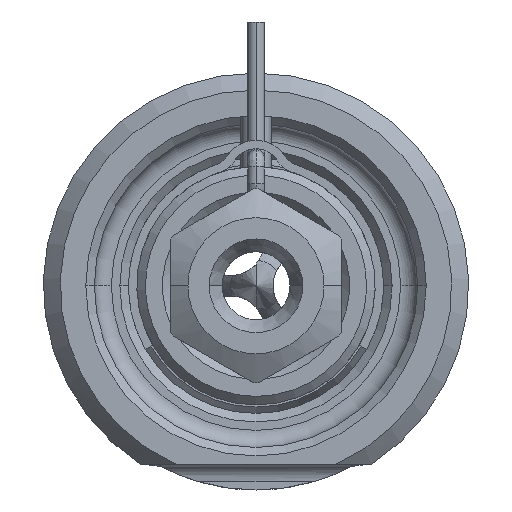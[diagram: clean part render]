
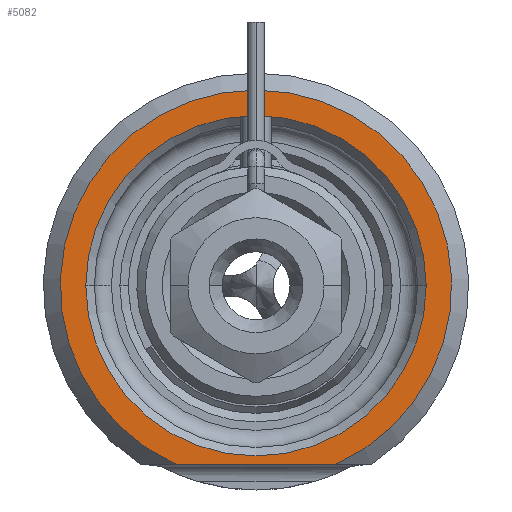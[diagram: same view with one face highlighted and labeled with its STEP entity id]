
A CAD part, front view. The second image highlights one B-rep face of the part: STEP entity #5082.
In plain terms, the highlighted planar face has unit normal (0, -1, 0).
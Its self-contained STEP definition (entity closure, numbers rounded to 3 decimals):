
#1275=CARTESIAN_POINT('',(0.,0.,0.));
#1276=DIRECTION('',(0.,-1.,0.));
#1277=DIRECTION('',(0.408,0.,-0.913));
#1278=AXIS2_PLACEMENT_3D('',#1275,#1276,#1277);
#1299=DIRECTION('',(1.,0.,0.));
#1300=VECTOR('',#1299,9.381);
#1301=CARTESIAN_POINT('',(-4.69,0.,-10.5));
#1302=LINE('',#1301,#1300);
#1303=CARTESIAN_POINT('',(0.,0.,0.));
#1304=DIRECTION('',(0.,1.,0.));
#1305=DIRECTION('',(-1.,0.,0.));
#1306=AXIS2_PLACEMENT_3D('',#1303,#1304,#1305);
#1308=CARTESIAN_POINT('',(0.,0.,0.));
#1309=DIRECTION('',(0.,1.,0.));
#1310=DIRECTION('',(1.,0.,0.));
#1311=AXIS2_PLACEMENT_3D('',#1308,#1309,#1310);
#3214=CARTESIAN_POINT('',(-10.,0.,0.));
#3215=CARTESIAN_POINT('',(10.,0.,0.));
#3216=VERTEX_POINT('',#3214);
#3217=VERTEX_POINT('',#3215);
#3272=CARTESIAN_POINT('',(-4.69,0.,-10.5));
#3273=CARTESIAN_POINT('',(4.69,0.,-10.5));
#3274=VERTEX_POINT('',#3272);
#3275=VERTEX_POINT('',#3273);
#5067=CARTESIAN_POINT('',(0.,0.,0.));
#5068=DIRECTION('',(0.,-1.,0.));
#5069=DIRECTION('',(1.,0.,0.));
#5070=AXIS2_PLACEMENT_3D('',#5067,#5068,#5069);
#5071=PLANE('',#5070);
#5072=ORIENTED_EDGE('',*,*,#5002,.F.);
#5073=ORIENTED_EDGE('',*,*,#5059,.F.);
#5074=EDGE_LOOP('',(#5072,#5073));
#5075=FACE_OUTER_BOUND('',#5074,.F.);
#5077=ORIENTED_EDGE('',*,*,#5076,.F.);
#5079=ORIENTED_EDGE('',*,*,#5078,.F.);
#5080=EDGE_LOOP('',(#5077,#5079));
#5081=FACE_BOUND('',#5080,.F.);
#5082=ADVANCED_FACE('',(#5075,#5081),#5071,.T.);
#1279=CIRCLE('',#1278,11.5);
#1307=CIRCLE('',#1306,10.);
#1312=CIRCLE('',#1311,10.);
#5002=EDGE_CURVE('',#3274,#3275,#1302,.T.);
#5059=EDGE_CURVE('',#3275,#3274,#1279,.T.);
#5076=EDGE_CURVE('',#3216,#3217,#1307,.T.);
#5078=EDGE_CURVE('',#3217,#3216,#1312,.T.);
